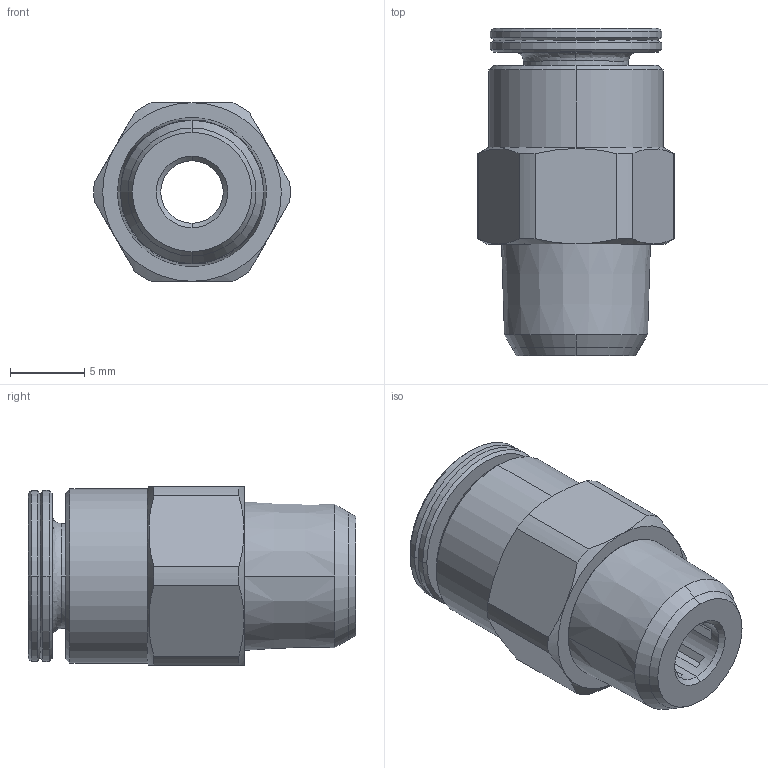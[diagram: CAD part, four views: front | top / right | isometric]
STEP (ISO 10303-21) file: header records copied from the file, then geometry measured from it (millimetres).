
FILE_DESCRIPTION (( 'STEP AP203' ), '1' );
FILE_NAME ('226-10622-8.STEP', '2024-05-15T09:08:53', ( '' ), ( '' ), 'SwSTEP 2.0', 'SolidWorks 2019', '' );
FILE_SCHEMA (( 'CONFIG_CONTROL_DESIGN' ));
Length unit declared in the file: millimetre
Products named in the file (1): 226-10622-8
Bounding box: 13.19 x 22 x 12 mm (x, y, z)
Surface area: 1694.6 mm2 (no closed solid volume)
Topology: 0 solids, 3 shells, 209 faces, 555 edges, 359 vertices
Faces by surface type: plane 121, cone 33, bspline 33, cylinder 22
Entity records: 7132 total; most frequent: CARTESIAN_POINT 2080, ORIENTED_EDGE 1106, DIRECTION 902, EDGE_CURVE 555, LINE 362, VECTOR 362, VERTEX_POINT 359, AXIS2_PLACEMENT_3D 270
